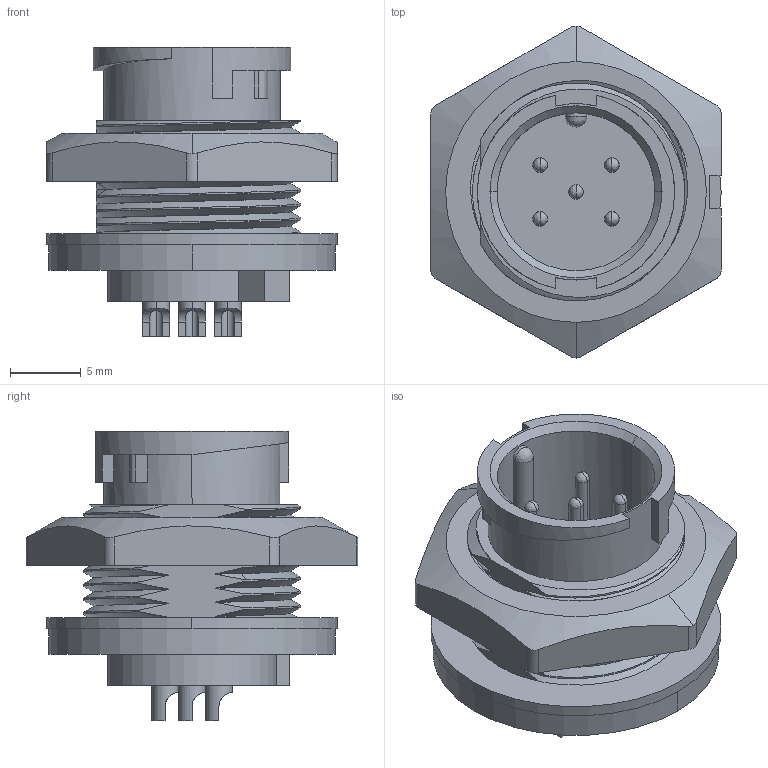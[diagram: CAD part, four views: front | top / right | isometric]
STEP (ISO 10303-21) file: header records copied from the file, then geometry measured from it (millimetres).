
FILE_DESCRIPTION (( 'STEP AP203' ), '1' );
FILE_NAME ('869-005-103R001.STEP', '2024-06-14T18:27:48', ( '' ), ( '' ), 'SwSTEP 2.0', 'SolidWorks 2020', '' );
FILE_SCHEMA (( 'CONFIG_CONTROL_DESIGN' ));
Length unit declared in the file: millimetre
Products named in the file (1): 869-005-103R001
Bounding box: 20.6 x 23.54 x 20.5 mm (x, y, z)
Volume: 2641.7 mm3; surface area: 3598.4 mm2
Topology: 2 solids, 2 shells, 266 faces, 691 edges, 418 vertices
Faces by surface type: cylinder 104, plane 63, bspline 54, cone 45
Entity records: 14477 total; most frequent: CARTESIAN_POINT 8521, ORIENTED_EDGE 1318, DIRECTION 1068, EDGE_CURVE 659, VERTEX_POINT 418, AXIS2_PLACEMENT_3D 416, EDGE_LOOP 289, ADVANCED_FACE 266
